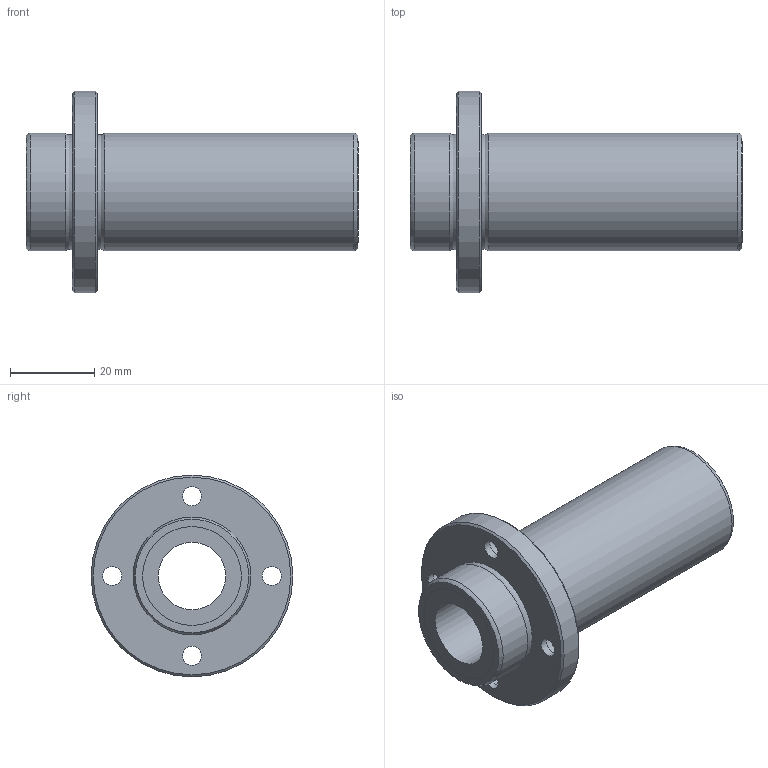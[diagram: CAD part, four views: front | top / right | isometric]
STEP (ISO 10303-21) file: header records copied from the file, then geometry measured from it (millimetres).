
FILE_DESCRIPTION((''),'2;1');
FILE_NAME('D:\製品 (図面)\カタログ用3D\メンテナンスフリー関連\STEP形式\LFDB-MF\LFDB16MF.stp','2010-06-01T15:37:35',('Tsuchiya'),(''),'Autodesk Inventor 10','Autodesk Inventor 10','');
FILE_SCHEMA(('AUTOMOTIVE_DESIGN { 1 0 10303 214 1 1 1 1 }'));
Length unit declared in the file: millimetre
Products named in the file (1): LFDB16MF
Bounding box: 79 x 48 x 48 mm (x, y, z)
Volume: 38738.2 mm3; surface area: 14818.5 mm2
Topology: 1 solids, 1 shells, 30 faces, 54 edges, 34 vertices
Faces by surface type: bspline 14, cylinder 6, plane 6, cone 2, torus 2
Full cylindrical faces by diameter (mm): 16 x1, 23.5 x2, 28 x2, 48 x1
Entity records: 907 total; most frequent: CARTESIAN_POINT 371, DIRECTION 102, ORIENTED_EDGE 68, EDGE_LOOP 68, AXIS2_PLACEMENT_3D 51, FACE_BOUND 38, VERTEX_POINT 34, CIRCLE 34
